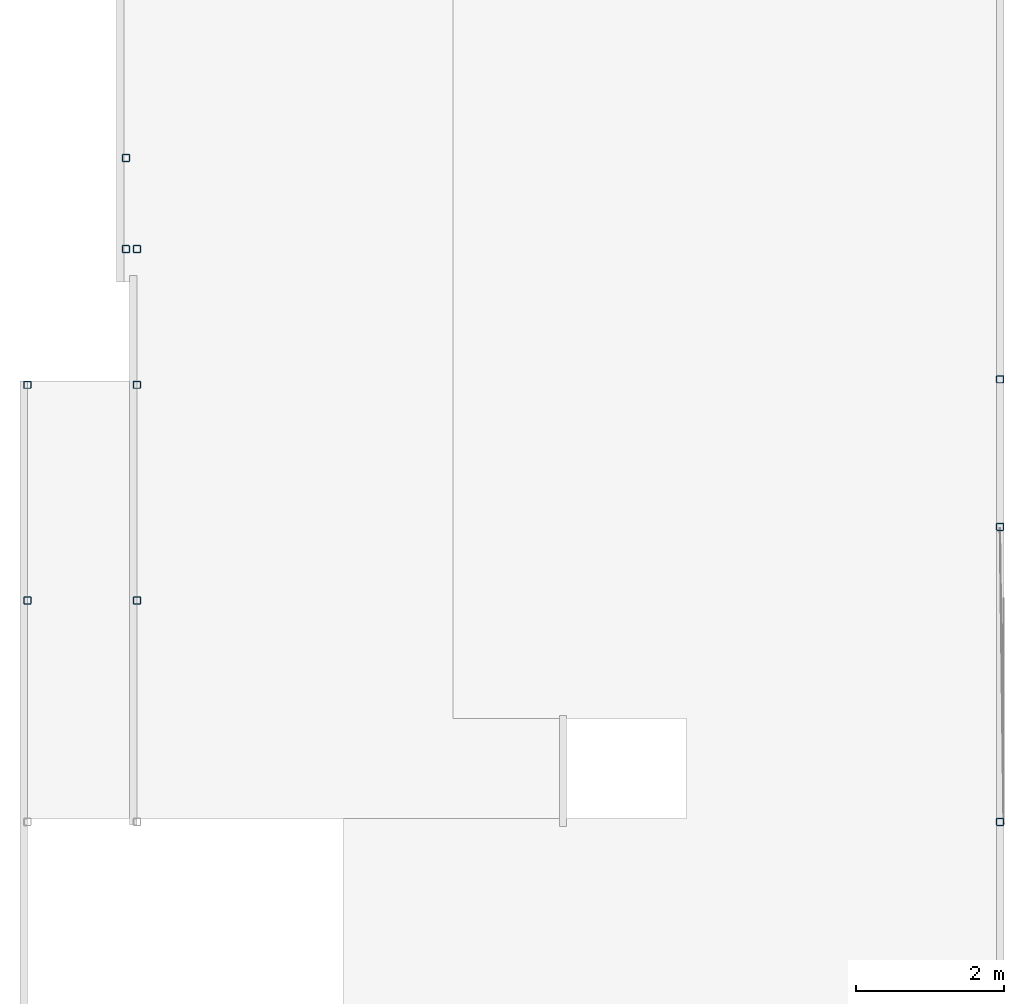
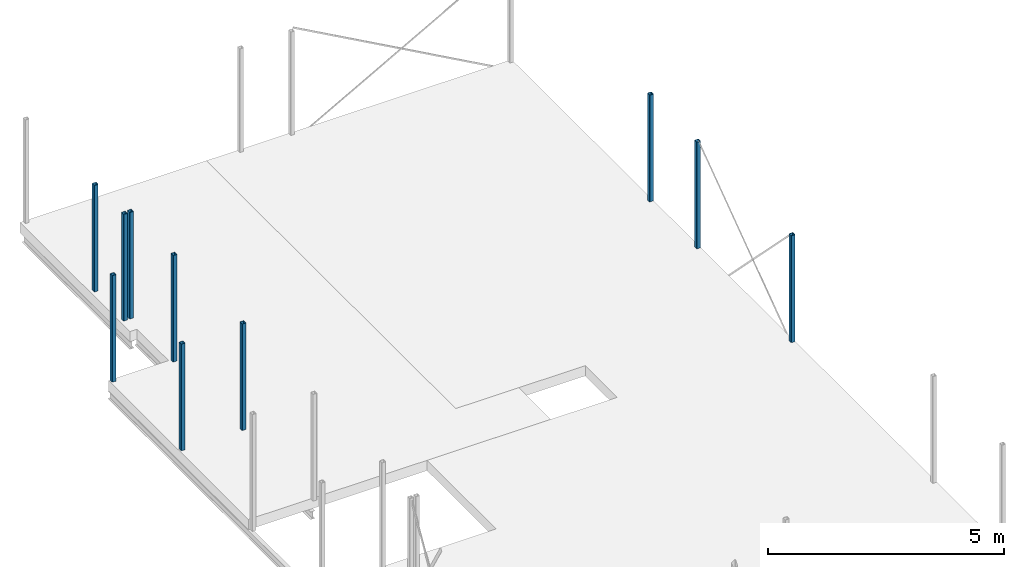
# One storey, part 2 of 4: 10 columns.
"""IFC2X3 building model written with IfcOpenShell, lengths in millimetres."""

from ifc_helpers import new_model, entity, si_unit, converted_unit, derived_unit, direction, frame, frame_2d, origin, place, context, subcontext, project, spatial, polyline, circle_curve, parameter, trimmed, segment, composite_curve, outline, extrude, source, transform, mapped, material, type_object, type_shapes, element, save


model = new_model("IFC2X3")

# Units and contexts
model_context = context("Model", 3, precision=0.01, world=origin(), true_north=direction((6.12303176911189e-17, 1.0)))
body_context = subcontext(model_context, "Body", "Model", "MODEL_VIEW")
ifc_project = project(units=[si_unit("LENGTHUNIT", "METRE", prefix="MILLI"), si_unit("AREAUNIT", "SQUARE_METRE"), si_unit("VOLUMEUNIT", "CUBIC_METRE"), converted_unit("PLANEANGLEUNIT", "DEGREE", entity("IfcRatioMeasure", 0.0174532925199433), si_unit("PLANEANGLEUNIT", "RADIAN"), dimensions=[0, 0, 0, 0, 0, 0, 0]), si_unit("MASSUNIT", "GRAM", prefix="KILO"), derived_unit("MASSDENSITYUNIT", [(si_unit("MASSUNIT", "GRAM", prefix="KILO"), 1), (si_unit("LENGTHUNIT", "METRE"), -3)]), si_unit("TIMEUNIT", "SECOND"), si_unit("FREQUENCYUNIT", "HERTZ"), si_unit("THERMODYNAMICTEMPERATUREUNIT", "DEGREE_CELSIUS"), derived_unit("THERMALTRANSMITTANCEUNIT", [(si_unit("MASSUNIT", "GRAM", prefix="KILO"), 1), (si_unit("THERMODYNAMICTEMPERATUREUNIT", "KELVIN"), -1), (si_unit("TIMEUNIT", "SECOND"), -3)]), derived_unit("VOLUMETRICFLOWRATEUNIT", [(si_unit("LENGTHUNIT", "METRE"), 3), (si_unit("TIMEUNIT", "SECOND"), -1)]), si_unit("ELECTRICCURRENTUNIT", "AMPERE"), si_unit("ELECTRICVOLTAGEUNIT", "VOLT"), si_unit("POWERUNIT", "WATT"), si_unit("FORCEUNIT", "NEWTON", prefix="KILO"), si_unit("ILLUMINANCEUNIT", "LUX"), si_unit("LUMINOUSFLUXUNIT", "LUMEN"), si_unit("LUMINOUSINTENSITYUNIT", "CANDELA"), derived_unit("USERDEFINED", [(si_unit("MASSUNIT", "GRAM", prefix="KILO"), -1), (si_unit("LENGTHUNIT", "METRE"), -2), (si_unit("TIMEUNIT", "SECOND"), 3), (si_unit("LUMINOUSFLUXUNIT", "LUMEN"), 1)]), derived_unit("LINEARVELOCITYUNIT", [(si_unit("LENGTHUNIT", "METRE"), 1), (si_unit("TIMEUNIT", "SECOND"), -1)]), si_unit("PRESSUREUNIT", "PASCAL"), derived_unit("USERDEFINED", [(si_unit("LENGTHUNIT", "METRE"), -2), (si_unit("MASSUNIT", "GRAM", prefix="KILO"), 1), (si_unit("TIMEUNIT", "SECOND"), -2)])], contexts=[model_context])

# Site, building, storey
site_placement = place(None, frame((0.0, 0.0, 101000.0)))
site = spatial("IfcSite", under=ifc_project, at=site_placement, Name="Default", CompositionType="ELEMENT")
building_placement = place(site_placement, origin())
building = spatial("IfcBuilding", under=site, at=building_placement, CompositionType="ELEMENT")
storey_placement = place(building_placement, frame((0.0, 0.0, 3150.0)))
storey = spatial("IfcBuildingStorey", under=building, at=storey_placement, Name="02", CompositionType="ELEMENT", Elevation=3149.9999999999)

# Columns
ifc_material = material(Name="S355")
column_type_1 = type_object("IfcColumnType", Name="HUP 100x100x6.3", PredefinedType="COLUMN", material=ifc_material)
shared_shape_1 = source(origin(), body_context, "Body", "SweptSolid", [
    extrude(outline(composite_curve([segment(polyline([(-37.4000000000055, -50.0), (37.4000000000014, -50.0)]), True, "CONTINUOUS"), segment(trimmed(circle_curve(frame_2d((37.4000000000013, -37.3999999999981), x_axis=(-1.0, 0.0)), 12.6000000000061), [parameter(90.0000000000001)], [parameter(180.0)], True, "PARAMETER"), True, "CONTINUOUS"), segment(polyline([(50.0, -37.3999999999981), (50.0, 37.4000000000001)]), True, "CONTINUOUS"), segment(trimmed(circle_curve(frame_2d((37.4000000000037, 37.4000000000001), x_axis=(-1.0, 0.0)), 12.6000000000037), [parameter(180.0)], [parameter(270.0)], True, "PARAMETER"), True, "CONTINUOUS"), segment(polyline([(37.4000000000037, 50.0), (-37.4000000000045, 50.0)]), True, "CONTINUOUS"), segment(trimmed(circle_curve(frame_2d((-37.4000000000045, 37.4000000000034), x_axis=(-1.0, 0.0)), 12.6000000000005), [parameter(270.0)], [parameter(360.0)], True, "PARAMETER"), True, "CONTINUOUS"), segment(polyline([(-50.0, 37.4000000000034), (-50.0, -37.4000000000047)]), True, "CONTINUOUS"), segment(trimmed(circle_curve(frame_2d((-37.4000000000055, -37.4000000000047), x_axis=(-1.0, 0.0)), 12.5999999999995), [parameter(360.0)], [parameter(89.9999999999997)], True, "PARAMETER"), True, "CONTINUOUS")], self_intersect=False), holes=[composite_curve([segment(trimmed(circle_curve(frame_2d((-37.4000000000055, -37.4000000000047), x_axis=(-1.0, 0.0)), 6.2999999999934), [parameter(0.0)], [parameter(90.0)], True, "PARAMETER"), False, "CONTINUOUS"), segment(polyline([(-43.6999999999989, -37.4000000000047), (-43.6999999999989, 37.4000000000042)]), True, "CONTINUOUS"), segment(trimmed(circle_curve(frame_2d((-37.4000000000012, 37.4000000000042), x_axis=(-1.0, 0.0)), 6.29999999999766), [parameter(270.0)], [parameter(360.0)], True, "PARAMETER"), False, "CONTINUOUS"), segment(polyline([(-37.4000000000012, 43.7000000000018), (37.3999999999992, 43.7000000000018)]), True, "CONTINUOUS"), segment(trimmed(circle_curve(frame_2d((37.3999999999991, 37.3999999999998), x_axis=(-1.0, 0.0)), 6.30000000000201), [parameter(180.0)], [parameter(270.0)], True, "PARAMETER"), False, "CONTINUOUS"), segment(polyline([(43.7000000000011, 37.3999999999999), (43.7000000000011, -37.3999999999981)]), True, "CONTINUOUS"), segment(trimmed(circle_curve(frame_2d((37.4000000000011, -37.3999999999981), x_axis=(-1.0, 0.0)), 6.30000000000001), [parameter(90.0000000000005)], [parameter(180.0)], True, "PARAMETER"), False, "CONTINUOUS"), segment(polyline([(37.4000000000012, -43.6999999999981), (-37.4000000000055, -43.6999999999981)]), True, "CONTINUOUS")], self_intersect=False)]), frame((0.0, 0.0, 3150.0), z_axis=(0.0, 0.0, 1.0), x_axis=(-1.0, 0.0, 0.0)), (0.0, 0.0, 1.0), 2755.0),
])
type_shapes(column_type_1, [shared_shape_1])
for number, where, name in (
    (1, (23111.2644969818, 36417.9507529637, -3150.0), "Søyle HUP:HUP 100x100x6.3"),
    (2, (11260.9045409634, 41417.9507529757, -3150.0), "Søyle HUP:HUP 100x100x6.3"),
    (3, (11260.9045409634, 40181.9922592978, -3150.0), "Søyle HUP:HUP 100x100x6.3"),
    (4, (11411.2644969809, 40181.9922592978, -3150.0), "Søyle HUP:HUP 100x100x6.3"),
    (5, (11411.2644969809, 38342.9507529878, -3150.0), "Søyle HUP:HUP 100x100x6.3"),
    (6, (9926.26449698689, 38342.9507529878, -3150.0), "Søyle HUP:HUP 100x100x6.3"),
    (7, (11411.2644969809, 35420.5450559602, -3150.0), "Søyle HUP:HUP 100x100x6.3"),
    (8, (9926.26449698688, 35420.5450559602, -3150.0), "Søyle HUP:HUP 100x100x6.3"),
):
    element("IfcColumn", number, at=place(storey_placement, frame(where)), inside=storey, type_object=column_type_1, material=ifc_material, Name=name, ObjectType="HUP 100x100x6.3", context=body_context, shape_type="MappedRepresentation", body=[
        mapped(shared_shape_1, transform((0.0, 0.0, 0.0), scale=1.0)),
    ])
column_type_2 = type_object("IfcColumnType", Name="HUP 100x100x6.3", PredefinedType="COLUMN", material=ifc_material)
shared_shape_2 = source(origin(), body_context, "Body", "SweptSolid", [
    extrude(outline(composite_curve([segment(polyline([(-37.4000000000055, -50.0), (37.4000000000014, -50.0)]), True, "CONTINUOUS"), segment(trimmed(circle_curve(frame_2d((37.4000000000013, -37.3999999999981), x_axis=(-1.0, 0.0)), 12.6000000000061), [parameter(90.0000000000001)], [parameter(180.0)], True, "PARAMETER"), True, "CONTINUOUS"), segment(polyline([(50.0, -37.3999999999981), (50.0, 37.4000000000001)]), True, "CONTINUOUS"), segment(trimmed(circle_curve(frame_2d((37.4000000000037, 37.4000000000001), x_axis=(-1.0, 0.0)), 12.6000000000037), [parameter(180.0)], [parameter(270.0)], True, "PARAMETER"), True, "CONTINUOUS"), segment(polyline([(37.4000000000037, 50.0), (-37.4000000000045, 50.0)]), True, "CONTINUOUS"), segment(trimmed(circle_curve(frame_2d((-37.4000000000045, 37.4000000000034), x_axis=(-1.0, 0.0)), 12.6000000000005), [parameter(270.0)], [parameter(360.0)], True, "PARAMETER"), True, "CONTINUOUS"), segment(polyline([(-50.0, 37.4000000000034), (-50.0, -37.4000000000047)]), True, "CONTINUOUS"), segment(trimmed(circle_curve(frame_2d((-37.4000000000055, -37.4000000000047), x_axis=(-1.0, 0.0)), 12.5999999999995), [parameter(360.0)], [parameter(89.9999999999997)], True, "PARAMETER"), True, "CONTINUOUS")], self_intersect=False), holes=[composite_curve([segment(trimmed(circle_curve(frame_2d((-37.4000000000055, -37.4000000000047), x_axis=(-1.0, 0.0)), 6.2999999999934), [parameter(0.0)], [parameter(90.0)], True, "PARAMETER"), False, "CONTINUOUS"), segment(polyline([(-43.6999999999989, -37.4000000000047), (-43.6999999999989, 37.4000000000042)]), True, "CONTINUOUS"), segment(trimmed(circle_curve(frame_2d((-37.4000000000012, 37.4000000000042), x_axis=(-1.0, 0.0)), 6.29999999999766), [parameter(270.0)], [parameter(360.0)], True, "PARAMETER"), False, "CONTINUOUS"), segment(polyline([(-37.4000000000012, 43.7000000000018), (37.3999999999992, 43.7000000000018)]), True, "CONTINUOUS"), segment(trimmed(circle_curve(frame_2d((37.3999999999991, 37.3999999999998), x_axis=(-1.0, 0.0)), 6.30000000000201), [parameter(180.0)], [parameter(270.0)], True, "PARAMETER"), False, "CONTINUOUS"), segment(polyline([(43.7000000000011, 37.3999999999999), (43.7000000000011, -37.3999999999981)]), True, "CONTINUOUS"), segment(trimmed(circle_curve(frame_2d((37.4000000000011, -37.3999999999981), x_axis=(-1.0, 0.0)), 6.30000000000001), [parameter(90.0000000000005)], [parameter(180.0)], True, "PARAMETER"), False, "CONTINUOUS"), segment(polyline([(37.4000000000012, -43.6999999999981), (-37.4000000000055, -43.6999999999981)]), True, "CONTINUOUS")], self_intersect=False)]), frame((0.0, 0.0, 3150.0), z_axis=(0.0, 0.0, 1.0), x_axis=(-1.0, 0.0, 0.0)), (0.0, 0.0, 1.0), 2761.0),
])
type_shapes(column_type_2, [shared_shape_2])
for number, where, name in (
    (9, (23111.2644969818, 32417.9507529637, -3150.0), "Søyle HUP:HUP 100x100x6.3"),
    (10, (23111.2644969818, 38417.9507529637, -3150.0), "Søyle HUP:HUP 100x100x6.3"),
):
    element("IfcColumn", number, at=place(storey_placement, frame(where)), inside=storey, type_object=column_type_2, material=ifc_material, Name=name, ObjectType="HUP 100x100x6.3", context=body_context, shape_type="MappedRepresentation", body=[
        mapped(shared_shape_2, transform((0.0, 0.0, 0.0), scale=1.0)),
    ])

save(model, "model.ifc")
